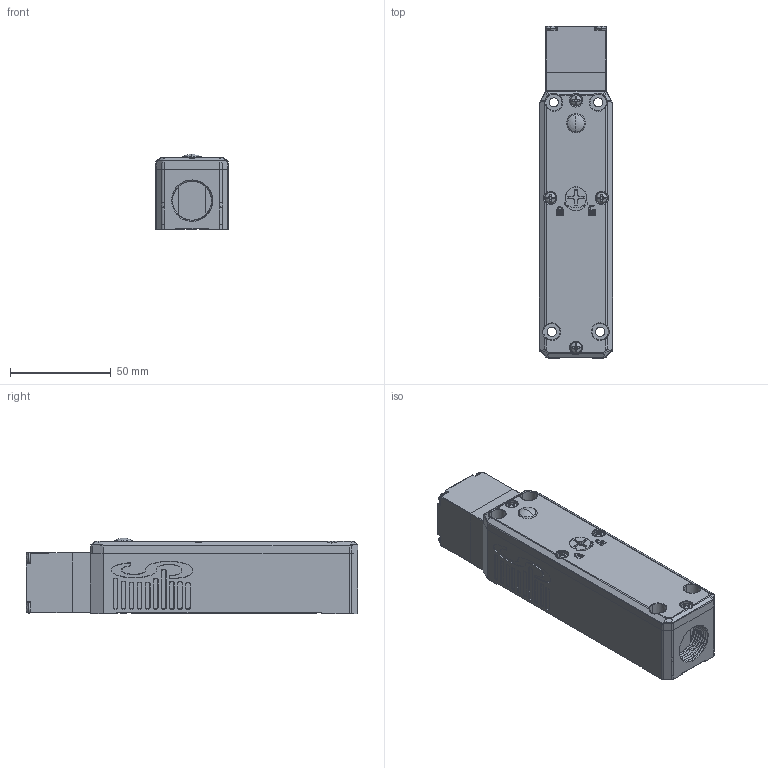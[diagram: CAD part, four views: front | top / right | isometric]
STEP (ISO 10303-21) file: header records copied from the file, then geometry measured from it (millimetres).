
FILE_DESCRIPTION((''),'2;1');
FILE_NAME('PRT0001','2023-12-06T21:49:10',('林章'),(''),'CREO PARAMETRIC BY PTC INC, 2020033','CREO PARAMETRIC BY PTC INC, 2020033','');
FILE_SCHEMA(('CONFIG_CONTROL_DESIGN'));
Products named in the file (1): PRT0001
Bounding box: 36.4 x 165 x 37.65 mm (x, y, z)
Volume: 190292.4 mm3; surface area: 29872.9 mm2
Topology: 1 solids, 5 shells, 1585 faces, 4195 edges, 2678 vertices
Faces by surface type: plane 825, cylinder 482, bspline 153, torus 68, cone 39, sphere 16, extrusion 2
Entity records: 58652 total; most frequent: CARTESIAN_POINT 21225, ORIENTED_EDGE 8358, DIRECTION 6879, EDGE_CURVE 4179, VERTEX_POINT 2678, VECTOR 2583, LINE 2581, AXIS2_PLACEMENT_3D 2148
